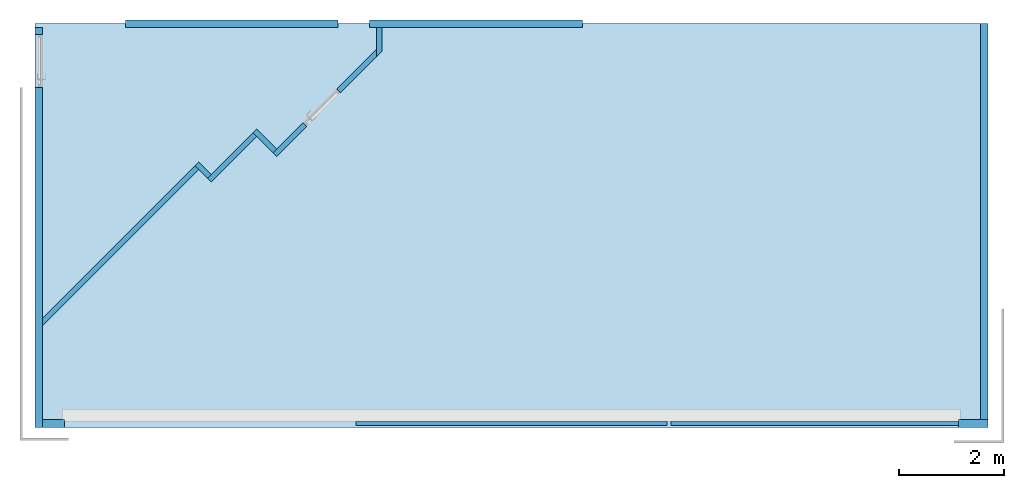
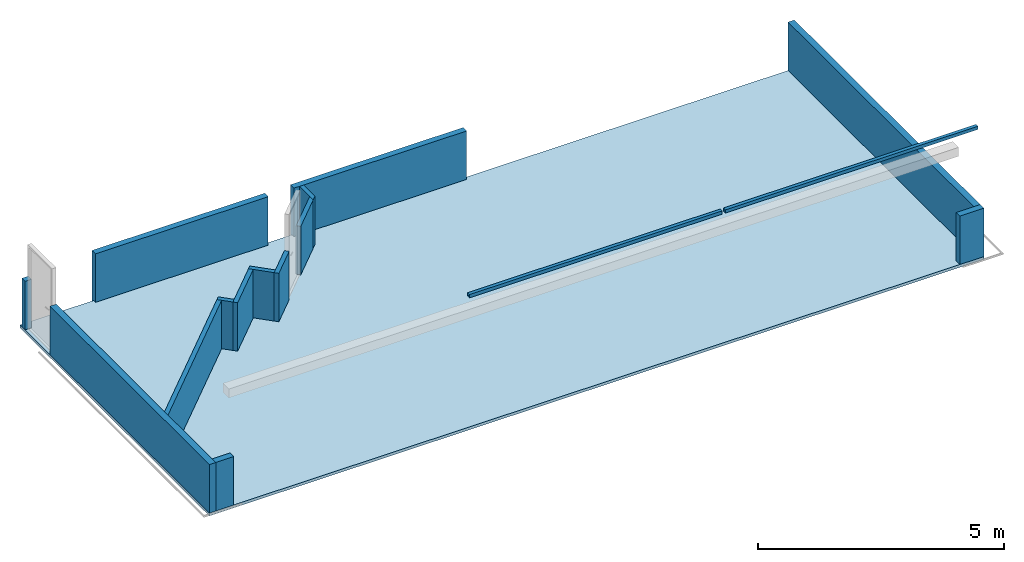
# One storey, part 1 of 3: 12 walls, 2 beams, 1 slab, 2 openings.
"""IFC2X3 building model written with IfcOpenShell, lengths in millimetres."""

from ifc_helpers import new_model, entity, si_unit, converted_unit, derived_unit, direction, frame, frame_2d, origin, origin_with_axes, origin_2d_with_axis, place, context, subcontext, project, spatial, polyline, rectangle, outline, extrude, boolean, clip, halfspace, faceted_brep, material, layer, layer_set, layer_usage, type_object, element, save


model = new_model("IFC2X3")

# Units and contexts
model_context = context("Model", 3, precision=0.01, world=frame((0.0, 4.29681676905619e-09, 0.0)), true_north=direction((4.01073788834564e-13, 1.0)))
plan_context = context("Plan", 3, precision=0.01, world=frame((0.0, 4.29681676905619e-09, 0.0)), true_north=direction((4.01073788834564e-13, 1.0)))
body_context = subcontext(model_context, "Body", "Model", "MODEL_VIEW")
ifc_project = project(units=[converted_unit("PLANEANGLEUNIT", "DEGREE", entity("IfcPositiveLengthMeasure", 0.0174532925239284), si_unit("PLANEANGLEUNIT", "RADIAN"), dimensions=[0, 0, 0, 0, 0, 0, 0]), si_unit("AREAUNIT", "SQUARE_METRE"), si_unit("LENGTHUNIT", "METRE", prefix="MILLI"), si_unit("MASSUNIT", "GRAM", prefix="KILO"), si_unit("POWERUNIT", "WATT"), si_unit("PRESSUREUNIT", "PASCAL", prefix="KILO"), si_unit("FORCEUNIT", "NEWTON", prefix="KILO"), si_unit("ELECTRICVOLTAGEUNIT", "VOLT"), si_unit("ELECTRICCURRENTUNIT", "AMPERE"), si_unit("THERMODYNAMICTEMPERATUREUNIT", "DEGREE_CELSIUS"), si_unit("TIMEUNIT", "SECOND"), si_unit("VOLUMEUNIT", "CUBIC_METRE"), derived_unit("LINEARVELOCITYUNIT", [(si_unit("LENGTHUNIT", "METRE"), 1), (si_unit("TIMEUNIT", "SECOND"), -1)]), derived_unit("VOLUMETRICFLOWRATEUNIT", [(si_unit("VOLUMEUNIT", "CUBIC_METRE"), 1), (si_unit("TIMEUNIT", "SECOND"), -1)]), derived_unit("THERMALTRANSMITTANCEUNIT", [(si_unit("POWERUNIT", "WATT"), 1), (si_unit("THERMODYNAMICTEMPERATUREUNIT", "KELVIN"), -1), (si_unit("AREAUNIT", "SQUARE_METRE"), -1)]), derived_unit("SOUNDPRESSUREUNIT", [(si_unit("PRESSUREUNIT", "PASCAL"), 1)])], contexts=[model_context, plan_context])

# Site, building, storey
site_placement = place(None, origin_with_axes())
site = spatial("IfcSite", under=ifc_project, at=site_placement, Name="ENGM", CompositionType="ELEMENT")
building_placement = place(site_placement, origin_with_axes())
building = spatial("IfcBuilding", under=site, at=building_placement, Name="TS", CompositionType="ELEMENT")
storey_placement = place(building_placement, frame((0.0, 0.0, 204000.0), z_axis=(0.0, 0.0, 1.0), x_axis=(1.0, 0.0, 0.0)))
storey = spatial("IfcBuildingStorey", under=building, at=storey_placement, Name="Nivå D", CompositionType="ELEMENT", Elevation=204000.0)

# Beams
ifc_material_1 = material(Name="_NSW Stål")
beam_type = type_object("IfcBeamType", Name="B223 - Bjelke - HUP:B223 - HUP 80x80x4", PredefinedType="NOTDEFINED")
for number, where, z_axis, x_axis, name in (
    (1, (606960.0, 397811.000000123, 3170.0), (0.0, 0.0, 1.0), (-1.0, 0.0, 0.0), "B223 - Bjelke - HUP:B223 - HUP 80x80x4"),
    (2, (612960.0, 397811.000000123, 3170.0), (0.0, 0.0, 1.0), (-1.0, 0.0, 0.0), "B223 - Bjelke - HUP:B223 - HUP 80x80x4"),
):
    element("IfcBeam", number, at=place(storey_placement, frame(where, z_axis=z_axis, x_axis=x_axis)), inside=storey, type_object=beam_type, material=ifc_material_1, Name=name, ObjectType="B223 - Bjelke - HUP:B223 - HUP 80x80x4", context=body_context, shape_type="SweptSolid", body=[
        boolean("DIFFERENCE", extrude(rectangle(XDim=79.9999999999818, YDim=79.9999999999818, at=origin_2d_with_axis()), frame((0.0, 0.0, 40.0), z_axis=(1.0, 0.0, 0.0), x_axis=(0.0, 0.0, -1.0)), (0.0, 0.0, 1.0), 5920.00000000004), extrude(rectangle(XDim=71.9999999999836, YDim=71.9999999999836, at=frame_2d((0.0, 0.0), x_axis=(0.0, 1.0))), frame((0.0, 0.0, 40.0), z_axis=(1.0, 0.0, 0.0), x_axis=(0.0, -1.0, 0.0)), (0.0, 0.0, 1.0), 5920.00000000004)),
    ])

# Slab
ifc_material_2 = material(Name="_NSW Gulv (Generell)")
ifc_layer_1 = layer(ifc_material_2, 70.0)
ifc_layer_set_1 = layer_set([ifc_layer_1], Name="Floor:A254 - Gulvoppbygging m_f.o - 70 mm")
slab_type = type_object("IfcSlabType", Name="Floor:A254 - Gulvoppbygging m_f.o - 70 mm", PredefinedType="FLOOR", material=ifc_layer_set_1)
slab_placement = place(storey_placement, frame((509141.688462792, 374057.35305054, -70.0), z_axis=(0.0, 0.0, 1.0), x_axis=(1.0, 0.0, 0.0)))
element("IfcSlab", 3, at=slab_placement, inside=storey, type_object=slab_type, Name="Floor:A254 - Gulvoppbygging m_f.o - 70 mm", ObjectType="Floor:A254 - Gulvoppbygging m_f.o - 70 mm", PredefinedType="FLOOR", context=body_context, shape_type="Brep", body=[
    faceted_brep([(85783.8115372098, 23679.1469495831, 69.9999999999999), (85783.8115372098, 31367.6469495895, 69.9999999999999), (103932.811537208, 31367.6469495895, 69.9999999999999), (103932.811537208, 23679.1469495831, 69.9999999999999), (85783.8115372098, 31367.6469495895, 1.60298441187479e-11), (85783.8115372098, 23679.1469495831, 1.60298441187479e-11), (103932.811537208, 23679.1469495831, 1.59161572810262e-11), (103932.811537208, 31367.6469495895, 1.60298441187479e-11)], [[[0, 1, 2, 3]], [[4, 5, 6, 7]], [[3, 2, 7, 6]], [[2, 1, 4, 7]], [[1, 0, 5, 4]], [[0, 3, 6, 5]]], orient=[[False], [False], [False], [False], [False], [False]]),
])

# Walls
ifc_material_3 = material(Name="Betong - Multiblokk")
ifc_layer_2 = layer(ifc_material_3, 142.0)
ifc_layer_set_2 = layer_set([ifc_layer_2], Name="Basic Wall:A241 - MK-142 (Multiblokk 142)")
ifc_layer_usage_1 = layer_usage(ifc_layer_set_2, "AXIS2", "NEGATIVE", 71.0)
wall_type_1 = type_object("IfcWallType", Name="Basic Wall:A241 - MK-142 (Multiblokk 142)", PredefinedType="STANDARD", material=ifc_layer_set_2)
wall_1_placement = place(storey_placement, frame((596650.000000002, 405420.994982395, -200.0), z_axis=(0.0, 0.0, 1.0), x_axis=(1.0, 0.0, 0.0)))
element("IfcWallStandardCase", 4, at=wall_1_placement, inside=storey, type_object=wall_type_1, material=ifc_layer_usage_1, Name="Basic Wall:A241 - MK-142 (Multiblokk 142)", ObjectType="Basic Wall:A241 - MK-142 (Multiblokk 142)", context=body_context, shape_type="Clipping", body=[
    clip(extrude(rectangle(XDim=4049.99999999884, YDim=142.000000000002, at=frame_2d((2024.99999999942, -2.80238054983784e-11), x_axis=(-1.0, 0.0))), origin(), (0.0, 0.0, 1.0), 1399.99999999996), halfspace(frame((0.0, 0.0, -200.0)), True)),
])
ifc_layer_usage_2 = layer_usage(ifc_layer_set_2, "AXIS2", "NEGATIVE", 71.0)
wall_2_placement = place(storey_placement, frame((601300.000000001, 405420.996508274, -200.0), z_axis=(0.0, 0.0, 1.0), x_axis=(1.0, 0.0, 0.0)))
element("IfcWallStandardCase", 5, at=wall_2_placement, inside=storey, type_object=wall_type_1, material=ifc_layer_usage_2, Name="Basic Wall:A241 - MK-142 (Multiblokk 142)", ObjectType="Basic Wall:A241 - MK-142 (Multiblokk 142)", context=body_context, shape_type="Clipping", body=[
    clip(extrude(rectangle(XDim=4049.99999999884, YDim=142.000000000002, at=frame_2d((2024.99999999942, -2.80238054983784e-11), x_axis=(-1.0, 0.0))), origin(), (0.0, 0.0, 1.0), 1399.99999999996), halfspace(frame((0.0, 0.0, -200.0)), True)),
])
ifc_material_4 = material(Name="Plate - Gips")
ifc_layer_3 = layer(ifc_material_4, 12.5)
ifc_material_5 = material(Name="_NSW Stålstender, uisolert")
ifc_layer_4 = layer(ifc_material_5, 75.0)
ifc_layer_5 = layer(ifc_material_4, 12.5)
ifc_layer_set_3 = layer_set([ifc_layer_3, ifc_layer_4, ifc_layer_5], Name="Basic Wall:A241 - SVS-75 (75/75 g-g)")
ifc_layer_usage_3 = layer_usage(ifc_layer_set_3, "AXIS2", "NEGATIVE", 50.0)
wall_type_2 = type_object("IfcWallType", Name="Basic Wall:A241 - SVS-75 (75/75 g-g)", PredefinedType="STANDARD", material=ifc_layer_set_3)
wall_3_placement = place(storey_placement, frame((601481.593820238, 405349.996508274, 0.0), z_axis=(0.0, 0.0, 1.0), x_axis=(0.0, -1.0, 0.0)))
element("IfcWallStandardCase", 6, at=wall_3_placement, inside=storey, type_object=wall_type_2, material=ifc_layer_usage_3, Name="Basic Wall:A241 - SVS-75 (75/75 g-g)", ObjectType="Basic Wall:A241 - SVS-75 (75/75 g-g)", context=body_context, shape_type="Clipping", body=[
    clip(extrude(outline(polyline([(556.338597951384, -50.0), (456.338597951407, 50.0), (0.0, 50.0), (0.0, -50.0), (414.917241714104, -50.0), (556.338597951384, -50.0)])), origin(), (0.0, 0.0, 1.0), 1200.0), halfspace(origin(), True)),
])

# Wall, opening
ifc_layer_usage_4 = layer_usage(ifc_layer_set_3, "AXIS2", "NEGATIVE", 50.0)
wall_4_placement = place(storey_placement, frame((601466.949159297, 404899.723927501, 0.0), z_axis=(0.0, 0.0, 1.0), x_axis=(-0.70710678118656, -0.707106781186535, 0.0)))
wall_4 = element("IfcWallStandardCase", 7, at=wall_4_placement, inside=storey, type_object=wall_type_2, material=ifc_layer_usage_4, Name="Basic Wall:A241 - SVS-75 (75/75 g-g)", ObjectType="Basic Wall:A241 - SVS-75 (75/75 g-g)", context=body_context, shape_type="Clipping", body=[
    clip(extrude(outline(polyline([(0.0, -50.0), (2689.01709483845, -50.0), (2789.01709483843, -50.0), (2789.01709483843, 50.0), (100.0, 50.0), (0.0, -50.0)])), origin(), (0.0, 0.0, 1.0), 1200.0), halfspace(origin(), True)),
])
opening_1_placement = place(wall_4_placement, frame((1979.01709483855, 50.0000000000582, 0.0), z_axis=(0.0, 0.0, 1.0), x_axis=(1.0, 0.0, 0.0)))
element("IfcOpeningElement", 8, at=opening_1_placement, cuts=wall_4, Name="A20 - Slagdør - Enkel:A243 - DI_LTO - 890 x 2090 mm:1", ObjectType="Opening", context=body_context, shape_type="SweptSolid", body=[
    extrude(rectangle(XDim=2109.99999999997, YDim=910.0, at=frame_2d((1054.99999999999, 455.0), x_axis=(1.0, 0.0))), frame((0.0, 0.0, 0.0), z_axis=(0.0, -1.0, 0.0), x_axis=(0.0, 0.0, 1.0)), (0.0, 0.0, 1.0), 100.0),
])

# Walls
ifc_layer_usage_5 = layer_usage(ifc_layer_set_3, "AXIS2", "NEGATIVE", 50.0)
wall_5_placement = place(storey_placement, frame((599494.816258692, 402998.301705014, 0.0), z_axis=(0.0, 0.0, 1.0), x_axis=(-0.707106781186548, 0.707106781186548, 0.0)))
element("IfcWallStandardCase", 9, at=wall_5_placement, inside=storey, type_object=wall_type_2, material=ifc_layer_usage_5, Name="Basic Wall:A241 - SVS-75 (75/75 g-g)", ObjectType="Basic Wall:A241 - SVS-75 (75/75 g-g)", context=body_context, shape_type="Clipping", body=[
    clip(extrude(rectangle(XDim=538.546278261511, YDim=99.9999999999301, at=frame_2d((269.273139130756, 7.351275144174e-11), x_axis=(-1.0, 0.0))), origin(), (0.0, 0.0, 1.0), 1200.0), halfspace(origin(), True)),
])
ifc_layer_usage_6 = layer_usage(ifc_layer_set_3, "AXIS2", "NEGATIVE", 50.0)
wall_6_placement = place(storey_placement, frame((599114.00653335, 403308.400752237, 0.0), z_axis=(0.0, 0.0, 1.0), x_axis=(-0.707106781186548, -0.707106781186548, 0.0)))
element("IfcWallStandardCase", 10, at=wall_6_placement, inside=storey, type_object=wall_type_2, material=ifc_layer_usage_6, Name="Basic Wall:A241 - SVS-75 (75/75 g-g)", ObjectType="Basic Wall:A241 - SVS-75 (75/75 g-g)", context=body_context, shape_type="Clipping", body=[
    clip(extrude(rectangle(XDim=1221.01527066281, YDim=99.999999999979, at=frame_2d((610.507635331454, 4.90132379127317e-11), x_axis=(-1.0, 0.0))), origin(), (0.0, 0.0, 1.0), 1200.0), halfspace(origin(), True)),
])
ifc_layer_usage_7 = layer_usage(ifc_layer_set_3, "AXIS2", "NEGATIVE", 50.0)
wall_7_placement = place(storey_placement, frame((598250.618355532, 402515.723252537, 0.0), z_axis=(0.0, 0.0, 1.0), x_axis=(-0.707106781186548, 0.707106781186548, 0.0)))
element("IfcWallStandardCase", 11, at=wall_7_placement, inside=storey, type_object=wall_type_2, material=ifc_layer_usage_7, Name="Basic Wall:A241 - SVS-75 (75/75 g-g)", ObjectType="Basic Wall:A241 - SVS-75 (75/75 g-g)", context=body_context, shape_type="Clipping", body=[
    clip(extrude(rectangle(XDim=337.004914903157, YDim=99.9999999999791, at=frame_2d((168.502457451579, 4.90096851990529e-11), x_axis=(-1.0, 0.0))), origin(), (0.0, 0.0, 1.0), 1200.0), halfspace(origin(), True)),
])
ifc_layer_usage_8 = layer_usage(ifc_layer_set_3, "AXIS2", "NEGATIVE", 50.0)
wall_8_placement = place(storey_placement, frame((598012.319894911, 402683.31103504, 0.0), z_axis=(0.0, 0.0, 1.0), x_axis=(-0.707106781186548, -0.707106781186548, 0.0)))
element("IfcWallStandardCase", 12, at=wall_8_placement, inside=storey, type_object=wall_type_2, material=ifc_layer_usage_8, Name="Basic Wall:A241 - SVS-75 (75/75 g-g)", ObjectType="Basic Wall:A241 - SVS-75 (75/75 g-g)", context=body_context, shape_type="Clipping", body=[
    clip(extrude(outline(polyline([(4104.70473918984, -50.0), (4204.70473918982, 50.0), (0.0, 50.0), (0.0, -50.0), (4104.70473918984, -50.0)])), origin(), (0.0, 0.0, 1.0), 1200.0), halfspace(origin(), True)),
])

# Wall, opening
ifc_layer_6 = layer(ifc_material_4, 12.5)
ifc_material_6 = material(Name="_NSW X-finer")
ifc_layer_7 = layer(ifc_material_6, 12.0)
ifc_layer_8 = layer(ifc_material_5, 100.0)
ifc_layer_9 = layer(ifc_material_6, 12.0)
ifc_layer_10 = layer(ifc_material_4, 12.5)
ifc_layer_set_4 = layer_set([ifc_layer_6, ifc_layer_7, ifc_layer_8, ifc_layer_9, ifc_layer_10], Name="Basic Wall:A241 - SVS-102 (100/100 gx-xg)")
ifc_layer_usage_9 = layer_usage(ifc_layer_set_4, "AXIS2", "NEGATIVE", 74.5)
wall_type_3 = type_object("IfcWallType", Name="Basic Wall:A241 - SVS-102 (100/100 gx-xg)", PredefinedType="STANDARD", material=ifc_layer_set_4)
wall_9_placement = place(storey_placement, frame((595000.000000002, 405350.0, 0.0), z_axis=(0.0, 0.0, 1.0), x_axis=(0.0, -1.0, 0.0)))
wall_9 = element("IfcWallStandardCase", 13, at=wall_9_placement, inside=storey, type_object=wall_type_3, material=ifc_layer_usage_9, Name="Basic Wall:A241 - SVS-102 (100/100 gx-xg)", ObjectType="Basic Wall:A241 - SVS-102 (100/100 gx-xg)", context=body_context, shape_type="Clipping", body=[
    clip(extrude(rectangle(XDim=7613.49999987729, YDim=148.999999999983, at=frame_2d((3806.74999993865, 3.46531692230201e-11), x_axis=(1.0, 0.0))), origin(), (0.0, 0.0, 1.0), 1200.0), halfspace(origin(), True)),
])
opening_2_placement = place(wall_9_placement, frame((129.9999999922, -74.5000000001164, 0.0), z_axis=(0.0, 0.0, 1.0), x_axis=(1.0, 0.0, 0.0)))
element("IfcOpeningElement", 14, at=opening_2_placement, cuts=wall_9, Name="A20 - Slagdør - Enkel:A243 - DI_LTO - 0990 x 2090 mm:1", ObjectType="Opening", context=body_context, shape_type="SweptSolid", body=[
    extrude(rectangle(XDim=2109.99999999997, YDim=1010.0, at=frame_2d((1054.99999999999, 505.0), x_axis=(1.0, 0.0))), frame((0.0, 0.0, 0.0), z_axis=(0.0, 1.0, 0.0), x_axis=(0.0, 0.0, 1.0)), (0.0, 0.0, 1.0), 149.0),
])

# Walls
ifc_layer_usage_10 = layer_usage(ifc_layer_set_4, "AXIS2", "NEGATIVE", 74.5)
wall_10_placement = place(storey_placement, frame((595074.500000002, 397811.000000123, 0.0), z_axis=(0.0, 0.0, 1.0), x_axis=(1.0, 0.0, 0.0)))
element("IfcWallStandardCase", 15, at=wall_10_placement, inside=storey, type_object=wall_type_3, material=ifc_layer_usage_10, Name="Basic Wall:A241 - SVS-102 (100/100 gx-xg)", ObjectType="Basic Wall:A241 - SVS-102 (100/100 gx-xg)", context=body_context, shape_type="Clipping", body=[
    clip(extrude(rectangle(XDim=420.861038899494, YDim=148.999999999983, at=frame_2d((210.430519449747, 3.02620151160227e-11), x_axis=(-1.0, 0.0))), origin(), (0.0, 0.0, 1.0), 1200.0), halfspace(origin(), True)),
])
ifc_layer_usage_11 = layer_usage(ifc_layer_set_4, "AXIS2", "NEGATIVE", 74.5)
wall_11_placement = place(storey_placement, frame((612511.0478585, 397811.000000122, 0.0), z_axis=(0.0, 0.0, 1.0), x_axis=(1.0, 0.0, 0.0)))
element("IfcWallStandardCase", 16, at=wall_11_placement, inside=storey, type_object=wall_type_3, material=ifc_layer_usage_11, Name="Basic Wall:A241 - SVS-102 (100/100 gx-xg)", ObjectType="Basic Wall:A241 - SVS-102 (100/100 gx-xg)", context=body_context, shape_type="Clipping", body=[
    clip(extrude(rectangle(XDim=563.452141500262, YDim=148.999999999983, at=frame_2d((281.726070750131, 2.87698753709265e-11), x_axis=(-1.0, 0.0))), origin(), (0.0, 0.0, 1.0), 1200.0), halfspace(origin(), True)),
])
ifc_layer_usage_12 = layer_usage(ifc_layer_set_4, "AXIS2", "NEGATIVE", 74.5)
wall_12_placement = place(storey_placement, frame((613000.0, 405425.000000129, 0.0), z_axis=(0.0, 0.0, 1.0), x_axis=(0.0, -1.0, 0.0)))
element("IfcWallStandardCase", 17, at=wall_12_placement, inside=storey, type_object=wall_type_3, material=ifc_layer_usage_12, Name="Basic Wall:A241 - SVS-102 (100/100 gx-xg)", ObjectType="Basic Wall:A241 - SVS-102 (100/100 gx-xg)", context=body_context, shape_type="Clipping", body=[
    clip(extrude(rectangle(XDim=7539.50000000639, YDim=148.999999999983, at=frame_2d((3769.75000000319, 5.32764943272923e-11), x_axis=(-1.0, 0.0))), origin(), (0.0, 0.0, 1.0), 1199.99999999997), halfspace(origin(), True)),
])

save(model, "model.ifc")
